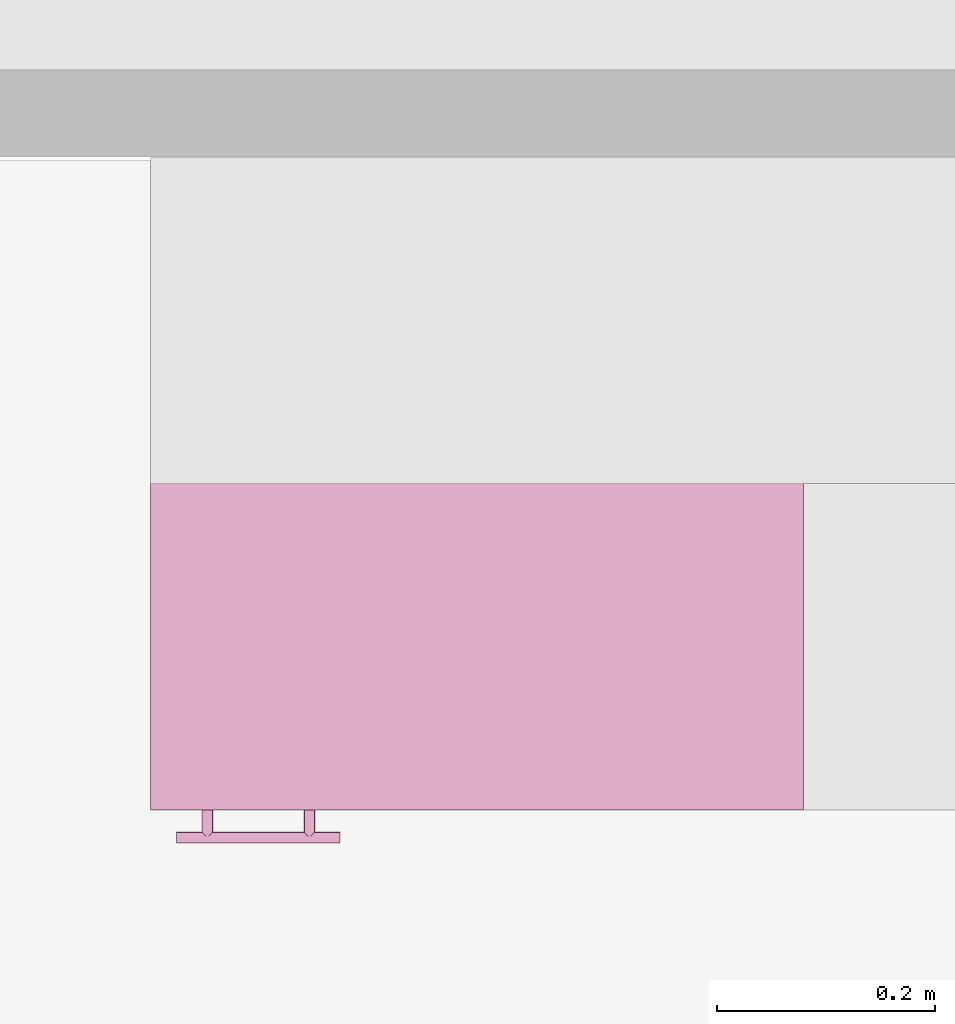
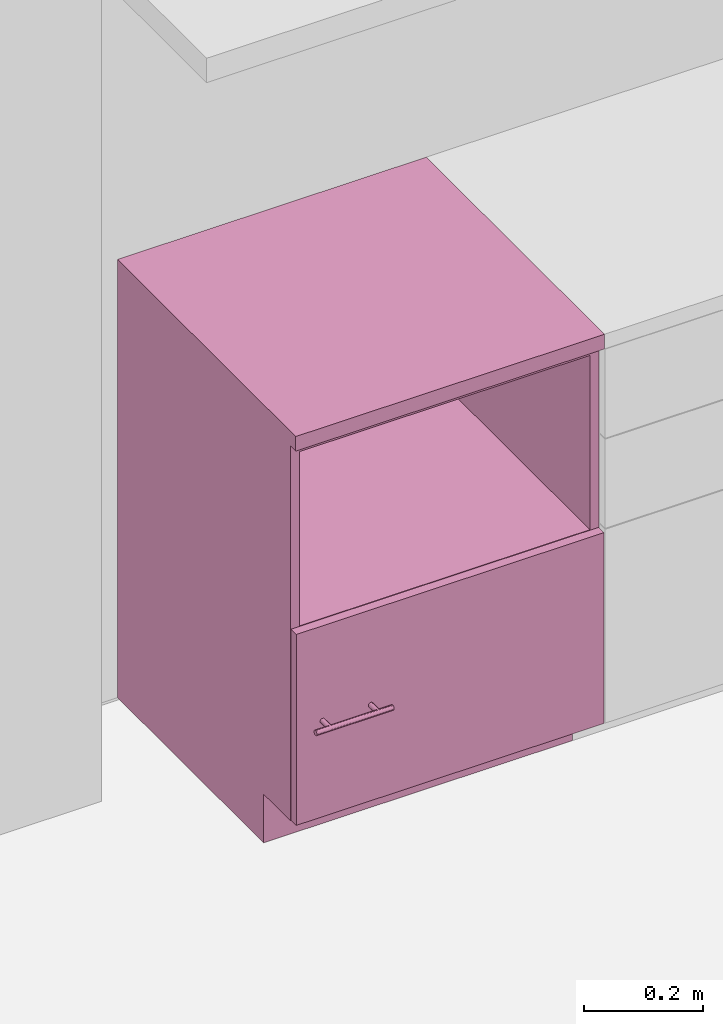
# One storey, part 283 of 301: 1 furnishing.
"""IFC2X3 building model written with IfcOpenShell, lengths in millimetres."""

from ifc_helpers import new_model, entity, si_unit, converted_unit, derived_unit, money_unit, direction, frame, origin_with_axes, place, context, subcontext, project, spatial, faceted_brep, type_object, element, save


model = new_model("IFC2X3")

# Units and contexts
model_context = context("Model", 3, precision=0.01, world=origin_with_axes(), true_north=direction((0.0, 1.0)))
body_context = subcontext(model_context, "Body", "Model", "MODEL_VIEW")
ifc_project = project(units=[si_unit("LENGTHUNIT", "METRE", prefix="MILLI"), si_unit("AREAUNIT", "SQUARE_METRE"), si_unit("VOLUMEUNIT", "CUBIC_METRE"), converted_unit("PLANEANGLEUNIT", "DEGREE", entity("IfcPlaneAngleMeasure", 0.0174532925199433), si_unit("PLANEANGLEUNIT", "RADIAN"), dimensions=[0, 0, 0, 0, 0, 0, 0]), money_unit("EUR"), converted_unit("TIMEUNIT", "Year", entity("IfcTimeMeasure", 31557600.0), si_unit("TIMEUNIT", "SECOND"), dimensions=[0, 0, 1, 0, 0, 0, 0]), si_unit("MASSUNIT", "GRAM", prefix="KILO"), si_unit("THERMODYNAMICTEMPERATUREUNIT", "DEGREE_CELSIUS"), si_unit("LUMINOUSINTENSITYUNIT", "LUMEN"), si_unit("ENERGYUNIT", "JOULE", prefix="MEGA"), derived_unit("THERMALCONDUCTANCEUNIT", [(si_unit("POWERUNIT", "WATT"), 1), (si_unit("LENGTHUNIT", "METRE"), -1), (si_unit("THERMODYNAMICTEMPERATUREUNIT", "KELVIN"), -1)]), derived_unit("SPECIFICHEATCAPACITYUNIT", [(si_unit("ENERGYUNIT", "JOULE"), 1), (si_unit("MASSUNIT", "GRAM", prefix="KILO"), -1), (si_unit("THERMODYNAMICTEMPERATUREUNIT", "KELVIN"), -1)]), derived_unit("MASSDENSITYUNIT", [(si_unit("MASSUNIT", "GRAM", prefix="KILO"), 1), (si_unit("VOLUMEUNIT", "CUBIC_METRE"), -1)])], contexts=[model_context])

# Site, building, storey
site_placement = place(None, frame((0.0, 0.0, 8650.0), z_axis=(0.0, 0.0, 1.0), x_axis=(1.0, 0.0, 0.0)))
site = spatial("IfcSite", under=ifc_project, at=site_placement, Name="43301:001:0844", CompositionType="ELEMENT")
building_placement = place(site_placement, origin_with_axes())
building = spatial("IfcBuilding", under=site, at=building_placement, Name="Kuressaare Ametikooli tuulikute mehaanikute õppekorpus", CompositionType="ELEMENT")
storey_placement = place(building_placement, origin_with_axes())
storey = spatial("IfcBuildingStorey", under=building, at=storey_placement, Name="1.korrus", CompositionType="ELEMENT", Elevation=0.0)

# Furnishing
furniture_type = type_object("IfcFurnitureType", Name="Base Cabinet Block 27", AssemblyPlace="NOTDEFINED")
furnishing_placement = place(storey_placement, frame((126918.2310410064, 31928.82728576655, 0.0), z_axis=(0.0, 0.0, 1.0), x_axis=(1.0, 0.0, 0.0)))
element("IfcFurnishingElement", 1, at=furnishing_placement, inside=storey, type_object=furniture_type, Name="KM-2", context=body_context, shape_type="Brep", body=[
    faceted_brep([(0.0, -600.0, 870.0), (0.0, -600.0, 900.0), (-600.0, -600.0, 900.0), (-600.0, -600.0, 870.0), (0.0, 0.0, 870.0), (0.0, 0.0, 900.0), (-600.0, 0.0, 900.0), (-600.0, 0.0, 870.0)], [[[0, 1, 2, 3]], [[4, 5, 1, 0]], [[1, 5, 6, 2]], [[3, 2, 6, 7]], [[0, 3, 7, 4]], [[7, 6, 5, 4]]]),
    faceted_brep([(-18.0, -582.0, 476.0), (-18.0, -582.0, 494.0), (-582.0, -582.0, 494.0), (-582.0, -582.0, 476.0), (-18.0, -18.0, 476.0), (-18.0, -18.0, 494.0), (-582.0, -18.0, 494.0), (-582.0, -18.0, 476.0)], [[[0, 1, 2, 3]], [[4, 5, 1, 0]], [[1, 5, 6, 2]], [[3, 2, 6, 7]], [[0, 3, 7, 4]], [[7, 6, 5, 4]]]),
    faceted_brep([(-552.799038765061, -600.0, 297.1317591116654), (-552.875, -600.0, 298.0000000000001), (-552.7990387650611, -600.0, 298.8682408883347), (-552.5734631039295, -600.0, 299.7101007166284), (-552.2051270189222, -600.0, 300.5000000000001), (-551.705222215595, -600.0, 301.2139380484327), (-551.0889380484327, -600.0, 301.8302222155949), (-550.375, -600.0, 302.3301270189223), (-549.5851007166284, -600.0, 302.6984631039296), (-548.7432408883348, -600.0, 302.9240387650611), (-547.875, -600.0, 303.0000000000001), (-547.0067591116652, -600.0, 302.9240387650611), (-546.1648992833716, -600.0, 302.6984631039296), (-545.375, -600.0, 302.3301270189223), (-544.6610619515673, -600.0, 301.8302222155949), (-544.044777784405, -600.0, 301.2139380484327), (-543.5448729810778, -600.0, 300.5000000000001), (-543.1765368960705, -600.0, 299.7101007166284), (-542.9509612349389, -600.0, 298.8682408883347), (-542.875, -600.0, 298.0000000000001), (-542.9509612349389, -600.0, 297.1317591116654), (-543.1765368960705, -600.0, 296.2898992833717), (-543.5448729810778, -600.0, 295.5000000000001), (-544.044777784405, -600.0, 294.7860619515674), (-544.6610619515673, -600.0, 294.1697777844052), (-545.375, -600.0, 293.6698729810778), (-546.1648992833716, -600.0, 293.3015368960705), (-547.0067591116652, -600.0, 293.075961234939), (-547.875, -600.0, 293.0000000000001), (-548.7432408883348, -600.0, 293.075961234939), (-549.5851007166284, -600.0, 293.3015368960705), (-550.375, -600.0, 293.6698729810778), (-551.0889380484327, -600.0, 294.1697777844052), (-551.705222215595, -600.0, 294.7860619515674), (-552.2051270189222, -600.0, 295.5000000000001), (-552.5734631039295, -600.0, 296.2898992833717), (-552.799038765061, -625.0, 297.1317591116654), (-552.875, -625.0, 298.0000000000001), (-552.7990387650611, -625.0, 298.8682408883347), (-552.5734631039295, -625.0, 299.7101007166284), (-552.2051270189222, -625.0, 300.5000000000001), (-551.705222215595, -625.0, 301.2139380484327), (-551.0889380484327, -625.0, 301.8302222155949), (-550.375, -625.0, 302.3301270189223), (-549.5851007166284, -625.0, 302.6984631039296), (-548.7432408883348, -625.0, 302.9240387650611), (-547.875, -625.0, 303.0000000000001), (-547.0067591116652, -625.0, 302.9240387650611), (-546.1648992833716, -625.0, 302.6984631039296), (-545.375, -625.0, 302.3301270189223), (-544.6610619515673, -625.0, 301.8302222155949), (-544.044777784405, -625.0, 301.2139380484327), (-543.5448729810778, -625.0, 300.5000000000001), (-543.1765368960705, -625.0, 299.7101007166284), (-542.9509612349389, -625.0, 298.8682408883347), (-542.875, -625.0, 298.0000000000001), (-542.9509612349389, -625.0, 297.1317591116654), (-543.1765368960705, -625.0, 296.2898992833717), (-543.5448729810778, -625.0, 295.5000000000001), (-544.044777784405, -625.0, 294.7860619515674), (-544.6610619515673, -625.0, 294.1697777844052), (-545.375, -625.0, 293.6698729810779), (-546.1648992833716, -625.0, 293.3015368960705), (-547.0067591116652, -625.0, 293.075961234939), (-547.875, -625.0, 293.0000000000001), (-548.7432408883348, -625.0, 293.075961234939), (-549.5851007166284, -625.0, 293.3015368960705), (-550.375, -625.0, 293.6698729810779), (-551.0889380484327, -625.0, 294.1697777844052), (-551.705222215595, -625.0, 294.7860619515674), (-552.2051270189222, -625.0, 295.5000000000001), (-552.5734631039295, -625.0, 296.2898992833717)], [[[0, 1, 2, 3, 4, 5, 6, 7, 8, 9, 10, 11, 12, 13, 14, 15, 16, 17, 18, 19, 20, 21, 22, 23, 24, 25, 26, 27, 28, 29, 30, 31, 32, 33, 34, 35]], [[0, 36, 37, 1]], [[1, 37, 38, 2]], [[2, 38, 39, 3]], [[3, 39, 40, 4]], [[4, 40, 41, 5]], [[5, 41, 42, 6]], [[6, 42, 43, 7]], [[7, 43, 44, 8]], [[8, 44, 45, 9]], [[9, 45, 46, 10]], [[10, 46, 47, 11]], [[11, 47, 48, 12]], [[12, 48, 49, 13]], [[13, 49, 50, 14]], [[14, 50, 51, 15]], [[15, 51, 52, 16]], [[16, 52, 53, 17]], [[17, 53, 54, 18]], [[18, 54, 55, 19]], [[19, 55, 56, 20]], [[20, 56, 57, 21]], [[21, 57, 58, 22]], [[22, 58, 59, 23]], [[23, 59, 60, 24]], [[24, 60, 61, 25]], [[25, 61, 62, 26]], [[26, 62, 63, 27]], [[27, 63, 64, 28]], [[28, 64, 65, 29]], [[29, 65, 66, 30]], [[30, 66, 67, 31]], [[31, 67, 68, 32]], [[32, 68, 69, 33]], [[33, 69, 70, 34]], [[34, 70, 71, 35]], [[35, 71, 36, 0]], [[36, 71, 70, 69, 68, 67, 66, 65, 64, 63, 62, 61, 60, 59, 58, 57, 56, 55, 54, 53, 52, 51, 50, 49, 48, 47, 46, 45, 44, 43, 42, 41, 40, 39, 38, 37]]]),
    faceted_brep([(-449.200961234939, -600.0, 297.1317591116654), (-449.4265368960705, -600.0, 296.2898992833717), (-449.7948729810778, -600.0, 295.5000000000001), (-450.2947777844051, -600.0, 294.7860619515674), (-450.9110619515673, -600.0, 294.1697777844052), (-451.625, -600.0, 293.6698729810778), (-452.4148992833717, -600.0, 293.3015368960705), (-453.2567591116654, -600.0, 293.075961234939), (-454.125, -600.0, 293.0000000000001), (-454.9932408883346, -600.0, 293.075961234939), (-455.8351007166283, -600.0, 293.3015368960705), (-456.625, -600.0, 293.6698729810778), (-457.3389380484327, -600.0, 294.1697777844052), (-457.9552222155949, -600.0, 294.7860619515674), (-458.4551270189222, -600.0, 295.5000000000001), (-458.8234631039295, -600.0, 296.2898992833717), (-459.049038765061, -600.0, 297.1317591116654), (-459.125, -600.0, 298.0000000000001), (-459.049038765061, -600.0, 298.8682408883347), (-458.8234631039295, -600.0, 299.7101007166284), (-458.4551270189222, -600.0, 300.5000000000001), (-457.9552222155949, -600.0, 301.2139380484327), (-457.3389380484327, -600.0, 301.8302222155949), (-456.625, -600.0, 302.3301270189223), (-455.8351007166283, -600.0, 302.6984631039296), (-454.9932408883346, -600.0, 302.9240387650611), (-454.125, -600.0, 303.0000000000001), (-453.2567591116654, -600.0, 302.9240387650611), (-452.4148992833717, -600.0, 302.6984631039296), (-451.625, -600.0, 302.3301270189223), (-450.9110619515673, -600.0, 301.8302222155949), (-450.2947777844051, -600.0, 301.2139380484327), (-449.7948729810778, -600.0, 300.5000000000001), (-449.4265368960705, -600.0, 299.7101007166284), (-449.200961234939, -600.0, 298.8682408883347), (-449.125, -600.0, 298.0000000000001), (-449.200961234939, -625.0, 297.1317591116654), (-449.4265368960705, -625.0, 296.2898992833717), (-449.7948729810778, -625.0, 295.5000000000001), (-450.2947777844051, -625.0, 294.7860619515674), (-450.9110619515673, -625.0, 294.1697777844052), (-451.625, -625.0, 293.6698729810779), (-452.4148992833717, -625.0, 293.3015368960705), (-453.2567591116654, -625.0, 293.075961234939), (-454.125, -625.0, 293.0000000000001), (-454.9932408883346, -625.0, 293.075961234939), (-455.8351007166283, -625.0, 293.3015368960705), (-456.625, -625.0, 293.6698729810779), (-457.3389380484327, -625.0, 294.1697777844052), (-457.9552222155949, -625.0, 294.7860619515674), (-458.4551270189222, -625.0, 295.5000000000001), (-458.8234631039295, -625.0, 296.2898992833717), (-459.049038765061, -625.0, 297.1317591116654), (-459.125, -625.0, 298.0000000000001), (-459.049038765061, -625.0, 298.8682408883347), (-458.8234631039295, -625.0, 299.7101007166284), (-458.4551270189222, -625.0, 300.5000000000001), (-457.9552222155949, -625.0, 301.2139380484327), (-457.3389380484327, -625.0, 301.8302222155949), (-456.625, -625.0, 302.3301270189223), (-455.8351007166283, -625.0, 302.6984631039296), (-454.9932408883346, -625.0, 302.9240387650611), (-454.125, -625.0, 303.0000000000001), (-453.2567591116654, -625.0, 302.9240387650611), (-452.4148992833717, -625.0, 302.6984631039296), (-451.625, -625.0, 302.3301270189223), (-450.9110619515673, -625.0, 301.8302222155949), (-450.2947777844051, -625.0, 301.2139380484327), (-449.7948729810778, -625.0, 300.5000000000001), (-449.4265368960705, -625.0, 299.7101007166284), (-449.200961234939, -625.0, 298.8682408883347), (-449.125, -625.0, 298.0000000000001)], [[[0, 1, 2, 3, 4, 5, 6, 7, 8, 9, 10, 11, 12, 13, 14, 15, 16, 17, 18, 19, 20, 21, 22, 23, 24, 25, 26, 27, 28, 29, 30, 31, 32, 33, 34, 35]], [[1, 0, 36, 37]], [[2, 1, 37, 38]], [[3, 2, 38, 39]], [[4, 3, 39, 40]], [[5, 4, 40, 41]], [[6, 5, 41, 42]], [[7, 6, 42, 43]], [[8, 7, 43, 44]], [[9, 8, 44, 45]], [[10, 9, 45, 46]], [[11, 10, 46, 47]], [[12, 11, 47, 48]], [[13, 12, 48, 49]], [[14, 13, 49, 50]], [[15, 14, 50, 51]], [[16, 15, 51, 52]], [[17, 16, 52, 53]], [[18, 17, 53, 54]], [[19, 18, 54, 55]], [[20, 19, 55, 56]], [[21, 20, 56, 57]], [[22, 21, 57, 58]], [[23, 22, 58, 59]], [[24, 23, 59, 60]], [[25, 24, 60, 61]], [[26, 25, 61, 62]], [[27, 26, 62, 63]], [[28, 27, 63, 64]], [[29, 28, 64, 65]], [[30, 29, 65, 66]], [[31, 30, 66, 67]], [[32, 31, 67, 68]], [[33, 32, 68, 69]], [[34, 33, 69, 70]], [[35, 34, 70, 71]], [[0, 35, 71, 36]], [[36, 71, 70, 69, 68, 67, 66, 65, 64, 63, 62, 61, 60, 59, 58, 57, 56, 55, 54, 53, 52, 51, 50, 49, 48, 47, 46, 45, 44, 43, 42, 41, 40, 39, 38, 37]]]),
    faceted_brep([(-426.0, -620.075961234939, 297.1317591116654), (-426.0, -620.0, 298.0000000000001), (-426.0, -620.0759612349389, 298.8682408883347), (-426.0, -620.3015368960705, 299.7101007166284), (-426.0, -620.6698729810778, 300.5000000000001), (-426.0, -621.169777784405, 301.2139380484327), (-426.0, -621.7860619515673, 301.8302222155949), (-426.0, -622.5, 302.3301270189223), (-426.0, -623.2898992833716, 302.6984631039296), (-426.0, -624.1317591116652, 302.9240387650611), (-426.0, -625.0, 303.0000000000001), (-426.0, -625.8682408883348, 302.9240387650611), (-426.0, -626.7101007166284, 302.6984631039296), (-426.0, -627.5, 302.3301270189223), (-426.0, -628.2139380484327, 301.8302222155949), (-426.0, -628.830222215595, 301.2139380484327), (-426.0, -629.3301270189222, 300.5000000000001), (-426.0, -629.6984631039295, 299.7101007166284), (-426.0, -629.9240387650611, 298.8682408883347), (-426.0, -630.0, 298.0000000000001), (-426.0, -629.9240387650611, 297.1317591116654), (-426.0, -629.6984631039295, 296.2898992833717), (-426.0, -629.3301270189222, 295.5000000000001), (-426.0, -628.830222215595, 294.7860619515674), (-426.0, -628.2139380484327, 294.1697777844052), (-426.0, -627.5, 293.6698729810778), (-426.0, -626.7101007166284, 293.3015368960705), (-426.0, -625.8682408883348, 293.075961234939), (-426.0, -625.0, 293.0000000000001), (-426.0, -624.1317591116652, 293.075961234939), (-426.0, -623.2898992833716, 293.3015368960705), (-426.0, -622.5, 293.6698729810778), (-426.0, -621.7860619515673, 294.1697777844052), (-426.0, -621.169777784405, 294.7860619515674), (-426.0, -620.6698729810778, 295.5000000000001), (-426.0, -620.3015368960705, 296.2898992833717), (-576.0, -620.075961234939, 297.1317591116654), (-576.0, -620.0, 298.0000000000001), (-576.0, -620.075961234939, 298.8682408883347), (-576.0, -620.3015368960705, 299.7101007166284), (-576.0, -620.6698729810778, 300.5000000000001), (-576.0, -621.169777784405, 301.2139380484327), (-576.0, -621.7860619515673, 301.8302222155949), (-576.0, -622.5, 302.3301270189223), (-576.0, -623.2898992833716, 302.6984631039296), (-576.0, -624.1317591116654, 302.9240387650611), (-576.0, -625.0, 303.0000000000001), (-576.0, -625.8682408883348, 302.9240387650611), (-576.0, -626.7101007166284, 302.6984631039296), (-576.0, -627.5000000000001, 302.3301270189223), (-576.0, -628.2139380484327, 301.8302222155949), (-576.0, -628.830222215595, 301.2139380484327), (-576.0, -629.3301270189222, 300.5000000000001), (-576.0, -629.6984631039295, 299.7101007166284), (-576.0, -629.9240387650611, 298.8682408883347), (-576.0, -630.0, 298.0000000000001), (-576.0, -629.9240387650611, 297.1317591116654), (-576.0, -629.6984631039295, 296.2898992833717), (-576.0, -629.3301270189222, 295.5000000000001), (-576.0, -628.830222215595, 294.7860619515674), (-576.0, -628.2139380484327, 294.1697777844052), (-576.0, -627.5000000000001, 293.6698729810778), (-576.0, -626.7101007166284, 293.3015368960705), (-576.0, -625.8682408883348, 293.075961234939), (-576.0, -625.0, 293.0000000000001), (-576.0, -624.1317591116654, 293.075961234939), (-576.0, -623.2898992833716, 293.3015368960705), (-576.0, -622.5, 293.6698729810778), (-576.0, -621.7860619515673, 294.1697777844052), (-576.0, -621.169777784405, 294.7860619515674), (-576.0, -620.6698729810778, 295.5000000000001), (-576.0, -620.3015368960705, 296.2898992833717)], [[[0, 1, 2, 3, 4, 5, 6, 7, 8, 9, 10, 11, 12, 13, 14, 15, 16, 17, 18, 19, 20, 21, 22, 23, 24, 25, 26, 27, 28, 29, 30, 31, 32, 33, 34, 35]], [[0, 36, 37, 1]], [[1, 37, 38, 2]], [[2, 38, 39, 3]], [[3, 39, 40, 4]], [[4, 40, 41, 5]], [[5, 41, 42, 6]], [[6, 42, 43, 7]], [[7, 43, 44, 8]], [[8, 44, 45, 9]], [[9, 45, 46, 10]], [[10, 46, 47, 11]], [[11, 47, 48, 12]], [[12, 48, 49, 13]], [[13, 49, 50, 14]], [[14, 50, 51, 15]], [[15, 51, 52, 16]], [[16, 52, 53, 17]], [[17, 53, 54, 18]], [[18, 54, 55, 19]], [[19, 55, 56, 20]], [[20, 56, 57, 21]], [[21, 57, 58, 22]], [[22, 58, 59, 23]], [[23, 59, 60, 24]], [[24, 60, 61, 25]], [[25, 61, 62, 26]], [[26, 62, 63, 27]], [[27, 63, 64, 28]], [[28, 64, 65, 29]], [[29, 65, 66, 30]], [[30, 66, 67, 31]], [[31, 67, 68, 32]], [[32, 68, 69, 33]], [[33, 69, 70, 34]], [[34, 70, 71, 35]], [[35, 71, 36, 0]], [[36, 71, 70, 69, 68, 67, 66, 65, 64, 63, 62, 61, 60, 59, 58, 57, 56, 55, 54, 53, 52, 51, 50, 49, 48, 47, 46, 45, 44, 43, 42, 41, 40, 39, 38, 37]]]),
    faceted_brep([(-1.0, -582.0, 101.0), (-1.0, -600.0, 101.0), (-599.0, -600.0, 101.0), (-599.0, -582.0, 101.0), (-1.0, -582.0, 493.0), (-1.0, -600.0, 493.0), (-599.0, -600.0, 493.0), (-599.0, -582.0, 493.0)], [[[0, 1, 2, 3]], [[4, 5, 1, 0]], [[1, 5, 6, 2]], [[3, 2, 6, 7]], [[0, 3, 7, 4]], [[7, 6, 5, 4]]]),
    faceted_brep([(-18.0, -582.0, 100.0), (-18.0, -582.0, 118.0), (-582.0, -582.0, 118.0), (-582.0, -582.0, 100.0), (-18.0, 0.0, 100.0), (-18.0, 0.0, 118.0), (-582.0, 0.0, 118.0), (-582.0, 0.0, 100.0)], [[[0, 1, 2, 3]], [[4, 5, 1, 0]], [[1, 5, 6, 2]], [[3, 2, 6, 7]], [[0, 3, 7, 4]], [[7, 6, 5, 4]]]),
    faceted_brep([(-18.0, -582.0, 852.0), (-582.0, -582.0, 852.0), (-582.0, -522.0, 852.0), (-18.0, -522.0, 852.0), (-18.0, -582.0, 870.0), (-582.0, -582.0, 870.0), (-582.0, -522.0, 870.0), (-18.0, -522.0, 870.0)], [[[0, 1, 2, 3]], [[4, 5, 1, 0]], [[1, 5, 6, 2]], [[3, 2, 6, 7]], [[0, 3, 7, 4]], [[7, 6, 5, 4]]]),
    faceted_brep([(-582.0, 0.0, 852.0), (-18.0, 0.0, 852.0), (-18.0, -60.0, 852.0), (-582.0, -60.0, 852.0), (-582.0, 0.0, 870.0), (-18.0, 0.0, 870.0), (-18.0, -60.0, 870.0), (-582.0, -60.0, 870.0)], [[[0, 1, 2, 3]], [[4, 5, 1, 0]], [[1, 5, 6, 2]], [[3, 2, 6, 7]], [[0, 3, 7, 4]], [[7, 6, 5, 4]]]),
    faceted_brep([(0.0, 0.0, 100.0), (0.0, 0.0, 870.0), (0.0, -582.0, 870.0), (0.0, -582.0, 100.0), (-18.0, 0.0, 100.0), (-18.0, 0.0, 870.0), (-18.0, -582.0, 870.0), (-18.0, -582.0, 100.0)], [[[0, 1, 2, 3]], [[4, 5, 1, 0]], [[1, 5, 6, 2]], [[3, 2, 6, 7]], [[0, 3, 7, 4]], [[7, 6, 5, 4]]]),
    faceted_brep([(-600.0, -582.0, 100.0), (-600.0, -582.0, 870.0), (-600.0, 0.0, 870.0), (-600.0, 0.0, 100.0), (-582.0, -582.0, 100.0), (-582.0, -582.0, 870.0), (-582.0, 0.0, 870.0), (-582.0, 0.0, 100.0)], [[[0, 1, 2, 3]], [[4, 5, 1, 0]], [[1, 5, 6, 2]], [[3, 2, 6, 7]], [[0, 3, 7, 4]], [[7, 6, 5, 4]]]),
    faceted_brep([(-582.0, -9.0, 118.0), (-582.0, -9.0, 852.0), (-18.00000000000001, -9.0, 852.0), (-18.00000000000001, -9.0, 118.0), (-582.0, -18.0, 118.0), (-582.0, -18.0, 852.0), (-18.00000000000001, -18.0, 852.0), (-18.00000000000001, -18.0, 118.0)], [[[0, 1, 2, 3]], [[4, 5, 1, 0]], [[1, 5, 6, 2]], [[3, 2, 6, 7]], [[0, 3, 7, 4]], [[7, 6, 5, 4]]]),
    faceted_brep([(0.0, -492.0, 0.0), (0.0, -492.0, 100.0), (-600.0, -492.0, 100.0), (-600.0, -492.0, 0.0), (0.0, 0.0, 0.0), (0.0, 0.0, 100.0), (-600.0, 0.0, 100.0), (-600.0, 0.0, 0.0)], [[[0, 1, 2, 3]], [[4, 5, 1, 0]], [[1, 5, 6, 2]], [[3, 2, 6, 7]], [[0, 3, 7, 4]], [[7, 6, 5, 4]]]),
])

save(model, "model.ifc")
